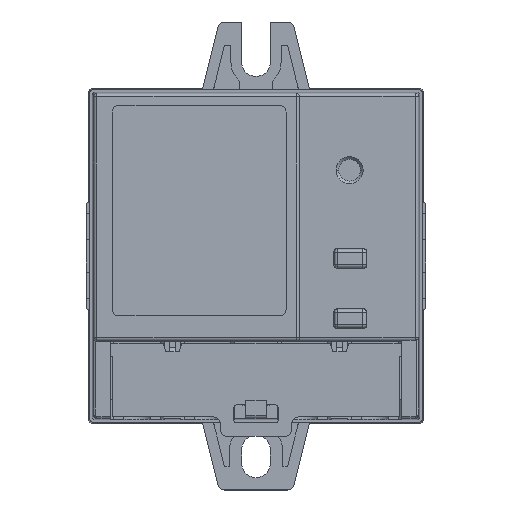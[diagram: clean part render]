
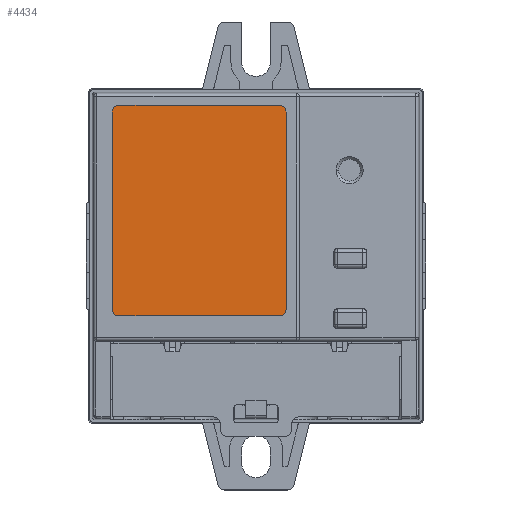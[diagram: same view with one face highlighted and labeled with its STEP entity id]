
A CAD part, top view. The second image highlights one B-rep face of the part: STEP entity #4434.
In plain terms, the highlighted planar face has unit normal (0, 0, 1).
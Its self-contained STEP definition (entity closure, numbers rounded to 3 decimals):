
#84 = CARTESIAN_POINT ( 'NONE',  ( 3.5, -3.5, 19.9 ) ) ;
#115 = FACE_OUTER_BOUND ( 'NONE', #5867, .T. ) ;
#138 = CIRCLE ( 'NONE', #4815, 1. ) ;
#140 = VECTOR ( 'NONE', #10935, 1000. ) ;
#318 = LINE ( 'NONE', #10900, #5306 ) ;
#1290 = CARTESIAN_POINT ( 'NONE',  ( 3.5, -2.5, 19.9 ) ) ;
#1506 = LINE ( 'NONE', #8541, #140 ) ;
#1645 = ORIENTED_EDGE ( 'NONE', *, *, #12048, .T. ) ;
#1719 = DIRECTION ( 'NONE',  ( -1., 0., 0. ) ) ;
#1938 = VERTEX_POINT ( 'NONE', #1290 ) ;
#2013 = DIRECTION ( 'NONE',  ( 0., 0., 1. ) ) ;
#2087 = CIRCLE ( 'NONE', #12696, 1. ) ;
#2223 = VERTEX_POINT ( 'NONE', #14864 ) ;
#2256 = CARTESIAN_POINT ( 'NONE',  ( 0., 0., 19.9 ) ) ;
#3110 = DIRECTION ( 'NONE',  ( -1., 0., 0. ) ) ;
#3261 = CARTESIAN_POINT ( 'NONE',  ( -21.5, -34., 19.9 ) ) ;
#3449 = DIRECTION ( 'NONE',  ( -1., 0., 0. ) ) ;
#3524 = AXIS2_PLACEMENT_3D ( 'NONE', #84, #8106, #6870 ) ;
#4232 = ORIENTED_EDGE ( 'NONE', *, *, #11707, .T. ) ;
#4268 = AXIS2_PLACEMENT_3D ( 'NONE', #2256, #5882, #4738 ) ;
#4434 = ADVANCED_FACE ( 'NONE', ( #115 ), #8131, .F. ) ;
#4496 = ORIENTED_EDGE ( 'NONE', *, *, #10040, .T. ) ;
#4651 = CARTESIAN_POINT ( 'NONE',  ( -21.5, -33., 19.9 ) ) ;
#4702 = ORIENTED_EDGE ( 'NONE', *, *, #9308, .T. ) ;
#4738 = DIRECTION ( 'NONE',  ( -1., 0., 0. ) ) ;
#4815 = AXIS2_PLACEMENT_3D ( 'NONE', #12300, #7365, #1719 ) ;
#5306 = VECTOR ( 'NONE', #12203, 1000. ) ;
#5379 = CARTESIAN_POINT ( 'NONE',  ( -20.5, -34., 19.9 ) ) ;
#5793 = ORIENTED_EDGE ( 'NONE', *, *, #5855, .T. ) ;
#5802 = EDGE_CURVE ( 'NONE', #10363, #12700, #138, .T. ) ;
#5855 = EDGE_CURVE ( 'NONE', #13084, #13670, #2087, .T. ) ;
#5867 = EDGE_LOOP ( 'NONE', ( #1645, #11680, #11226, #4232, #8387, #5793, #4496, #4702 ) ) ;
#5882 = DIRECTION ( 'NONE',  ( 0., 0., -1. ) ) ;
#6209 = CARTESIAN_POINT ( 'NONE',  ( -20.5, -2.5, 19.9 ) ) ;
#6870 = DIRECTION ( 'NONE',  ( -1., 0., 0. ) ) ;
#7151 = CARTESIAN_POINT ( 'NONE',  ( -20.5, -33., 19.9 ) ) ;
#7157 = VECTOR ( 'NONE', #13338, 1000. ) ;
#7365 = DIRECTION ( 'NONE',  ( 0., 0., 1. ) ) ;
#7822 = VERTEX_POINT ( 'NONE', #5379 ) ;
#8106 = DIRECTION ( 'NONE',  ( 0., 0., 1. ) ) ;
#8131 = PLANE ( 'NONE',  #4268 ) ;
#8387 = ORIENTED_EDGE ( 'NONE', *, *, #9465, .T. ) ;
#8541 = CARTESIAN_POINT ( 'NONE',  ( 4.5, -34., 19.9 ) ) ;
#8899 = CARTESIAN_POINT ( 'NONE',  ( -20.5, -3.5, 19.9 ) ) ;
#9308 = EDGE_CURVE ( 'NONE', #10109, #7822, #10882, .T. ) ;
#9465 = EDGE_CURVE ( 'NONE', #1938, #13084, #12391, .T. ) ;
#10040 = EDGE_CURVE ( 'NONE', #13670, #10109, #13836, .T. ) ;
#10046 = CARTESIAN_POINT ( 'NONE',  ( 3.5, -34., 19.9 ) ) ;
#10109 = VERTEX_POINT ( 'NONE', #4651 ) ;
#10363 = VERTEX_POINT ( 'NONE', #10046 ) ;
#10723 = DIRECTION ( 'NONE',  ( 0., 0., 1. ) ) ;
#10882 = CIRCLE ( 'NONE', #15049, 1. ) ;
#10900 = CARTESIAN_POINT ( 'NONE',  ( 4.5, -2.5, 19.9 ) ) ;
#10935 = DIRECTION ( 'NONE',  ( 1., 0., 0. ) ) ;
#11226 = ORIENTED_EDGE ( 'NONE', *, *, #15064, .T. ) ;
#11680 = ORIENTED_EDGE ( 'NONE', *, *, #5802, .T. ) ;
#11707 = EDGE_CURVE ( 'NONE', #2223, #1938, #15103, .T. ) ;
#12048 = EDGE_CURVE ( 'NONE', #7822, #10363, #1506, .T. ) ;
#12203 = DIRECTION ( 'NONE',  ( 0., 1., 0. ) ) ;
#12253 = CARTESIAN_POINT ( 'NONE',  ( -21.5, -2.5, 19.9 ) ) ;
#12300 = CARTESIAN_POINT ( 'NONE',  ( 3.5, -33., 19.9 ) ) ;
#12391 = LINE ( 'NONE', #12253, #7157 ) ;
#12696 = AXIS2_PLACEMENT_3D ( 'NONE', #8899, #2013, #3110 ) ;
#12700 = VERTEX_POINT ( 'NONE', #14214 ) ;
#12741 = CARTESIAN_POINT ( 'NONE',  ( -21.5, -3.5, 19.9 ) ) ;
#13084 = VERTEX_POINT ( 'NONE', #6209 ) ;
#13338 = DIRECTION ( 'NONE',  ( -1., 0., 0. ) ) ;
#13670 = VERTEX_POINT ( 'NONE', #12741 ) ;
#13836 = LINE ( 'NONE', #3261, #14082 ) ;
#14082 = VECTOR ( 'NONE', #14842, 1000. ) ;
#14214 = CARTESIAN_POINT ( 'NONE',  ( 4.5, -33., 19.9 ) ) ;
#14842 = DIRECTION ( 'NONE',  ( 0., -1., 0. ) ) ;
#14864 = CARTESIAN_POINT ( 'NONE',  ( 4.5, -3.5, 19.9 ) ) ;
#15049 = AXIS2_PLACEMENT_3D ( 'NONE', #7151, #10723, #3449 ) ;
#15064 = EDGE_CURVE ( 'NONE', #12700, #2223, #318, .T. ) ;
#15103 = CIRCLE ( 'NONE', #3524, 1. ) ;
